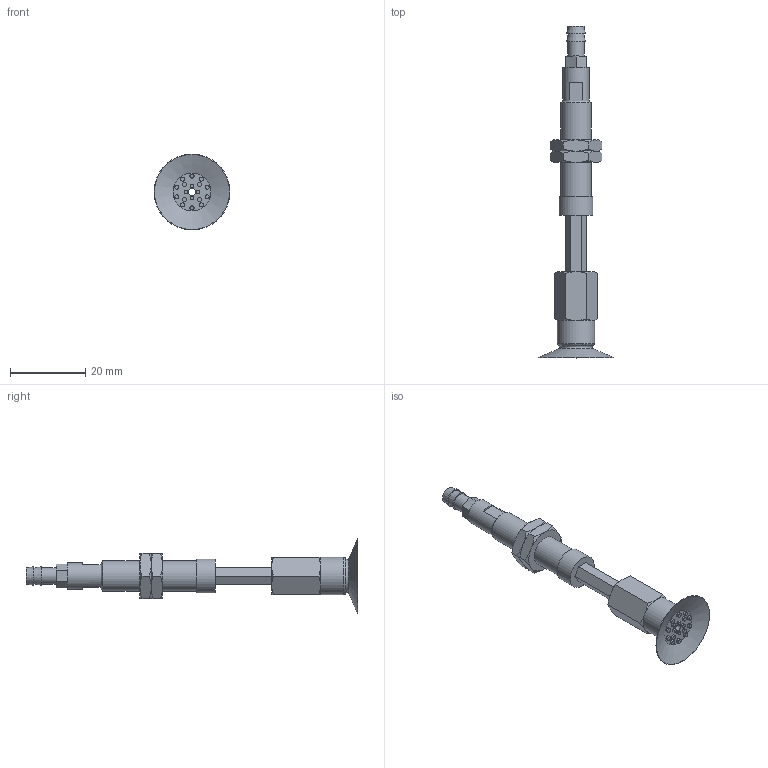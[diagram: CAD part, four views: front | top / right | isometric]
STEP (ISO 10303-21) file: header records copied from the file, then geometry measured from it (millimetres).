
FILE_DESCRIPTION(('STEP AP203'),'1');
FILE_NAME('-T.stp','2025-08-21T08:34:21',(' '),(' '),'Spatial InterOp 3D',' ',' ');
FILE_SCHEMA(('CONFIG_CONTROL_DESIGN'));
Length unit declared in the file: millimetre
Products named in the file (7): BNABPATH-20A-15-※-T; ADAPTER; NAPATH-10A-15--M; NAPATH-20A-15--F; Nut-10A-S; CONNECTOR-10A-3-T-PA; BPAG-20A-※
Assembly tree (7 placements, depth 2):
  BNABPATH-20A-15-※-T
    ADAPTER
    NAPATH-10A-15--M
    NAPATH-20A-15--F
    Nut-10A-S  x2
    CONNECTOR-10A-3-T-PA
    BPAG-20A-※
Bounding box: 20.19 x 88.5 x 20.19 mm (x, y, z)
Volume: 4433.1 mm3; surface area: 5723.1 mm2
Topology: 7 solids, 7 shells, 177 faces, 354 edges, 220 vertices
Faces by surface type: plane 83, cone 49, cylinder 35, torus 10
Full cylindrical faces by diameter (mm): 0.9 x4, 1.1 x14, 2 x3, 3 x1, 4 x2, 4.134 x1, 4.3 x1, 5 x1, 6 x2, 7 x1, 7.188 x2, 8 x1, 9 x1, 10 x1
Entity records: 4182 total; most frequent: CARTESIAN_POINT 876, DIRECTION 636, ORIENTED_EDGE 484, AXIS2_PLACEMENT_3D 280, EDGE_LOOP 250, EDGE_CURVE 242, FACE_OUTER_BOUND 198, VERTEX_POINT 184
